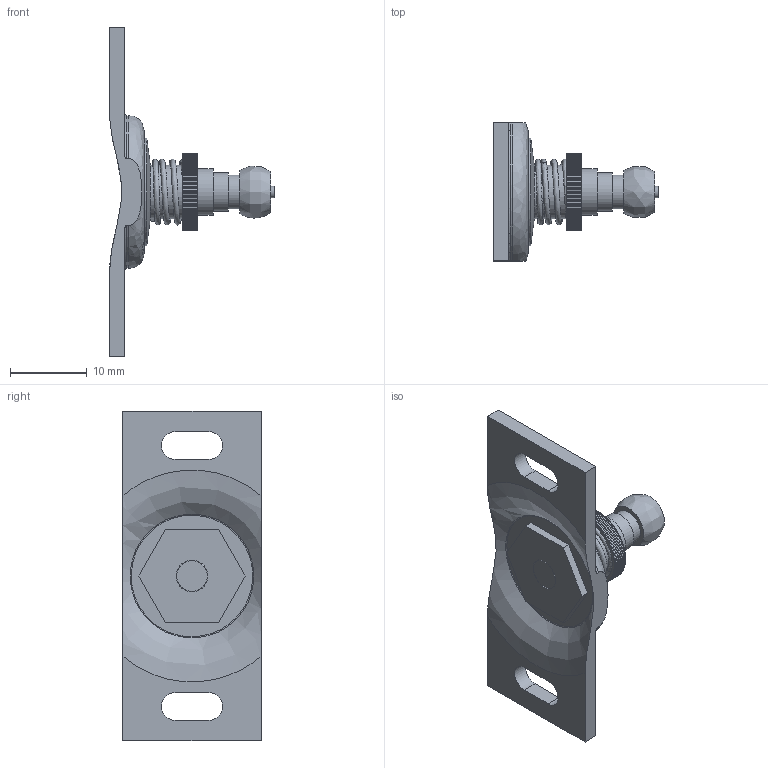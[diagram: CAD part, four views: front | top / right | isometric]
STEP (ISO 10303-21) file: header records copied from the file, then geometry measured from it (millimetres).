
FILE_DESCRIPTION (( 'STEP AP214' ), '1' );
FILE_NAME ('RG8NO.STEP', '2017-03-07T07:12:46', ( '1' ), ( 'MICROSOFT' ), 'SwSTEP 2.0', 'SolidWorks 2012', '' );
FILE_SCHEMA (( 'AUTOMOTIVE_DESIGN' ));
Length unit declared in the file: millimetre
Products named in the file (1): RG8NO
Bounding box: 21.5 x 18 x 43 mm (x, y, z)
Volume: 2176 mm3; surface area: 3482.8 mm2
Topology: 4 solids, 4 shells, 252 faces, 719 edges, 481 vertices
Faces by surface type: cylinder 197, plane 32, bspline 18, cone 5
Full cylindrical faces by diameter (mm): 1.5 x1, 4.134 x1, 4.4 x1, 5 x2, 6 x1, 7 x1, 7.2 x1, 9 x1, 10 x1, 14 x1
Entity records: 12961 total; most frequent: CARTESIAN_POINT 3500, DIRECTION 1502, ORIENTED_EDGE 1346, EDGE_CURVE 673, AXIS2_PLACEMENT_3D 634, VERTEX_POINT 463, CIRCLE 399, EDGE_LOOP 296
